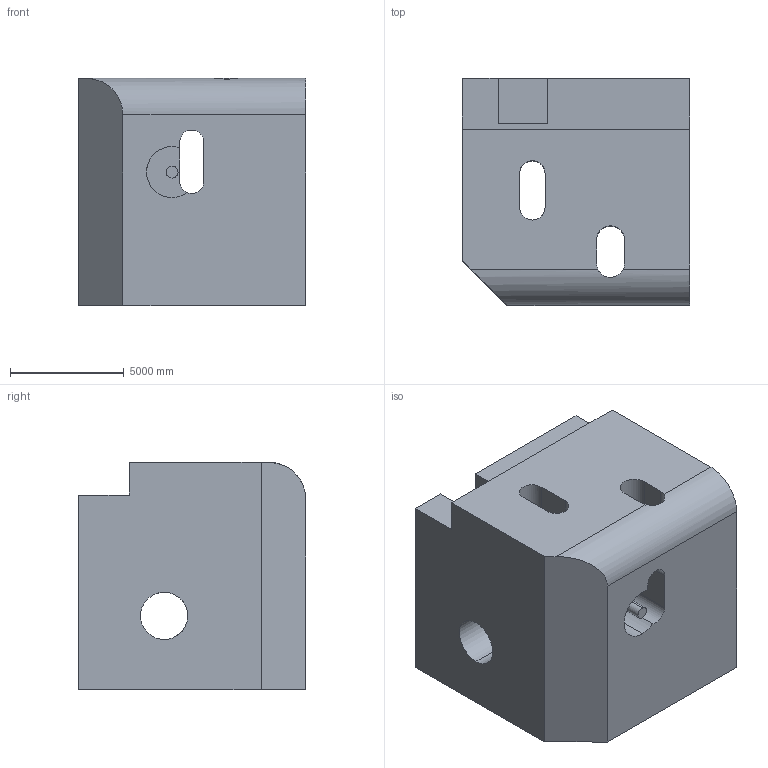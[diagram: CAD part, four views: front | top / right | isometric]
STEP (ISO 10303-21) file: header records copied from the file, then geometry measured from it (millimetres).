
FILE_DESCRIPTION (( 'STEP AP203' ), '1' );
FILE_NAME ('923.STEP', '2022-08-04T16:14:55', ( 'user' ), ( '' ), 'SwSTEP 2.0', 'SolidWorks 2021', '' );
FILE_SCHEMA (( 'CONFIG_CONTROL_DESIGN' ));
Length unit declared in the file: centimetre
Products named in the file (1): 923
Bounding box: 10000 x 10000 x 10000 mm (x, y, z)
Volume: 780165790238.5 mm3; surface area: 825689123.4 mm2
Topology: 1 solids, 1 shells, 42 faces, 129 edges, 86 vertices
Faces by surface type: plane 25, cylinder 17
Entity records: 2210 total; most frequent: CARTESIAN_POINT 942, ORIENTED_EDGE 258, DIRECTION 238, EDGE_CURVE 129, VECTOR 86, LINE 86, VERTEX_POINT 86, AXIS2_PLACEMENT_3D 76
